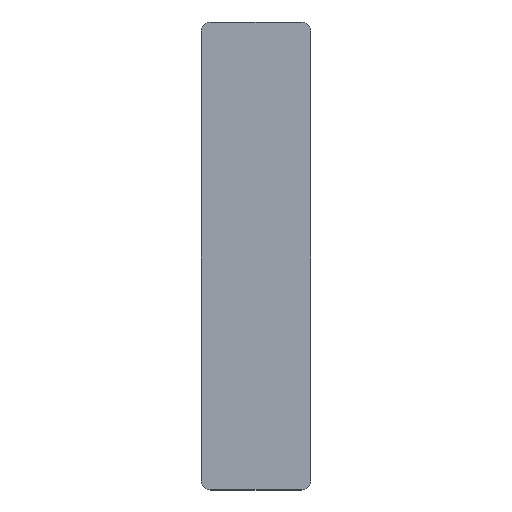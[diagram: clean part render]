
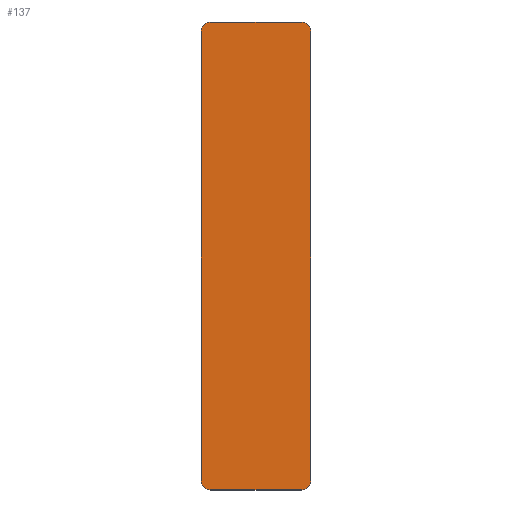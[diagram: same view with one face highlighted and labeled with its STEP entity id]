
A CAD part, top view. The second image highlights one B-rep face of the part: STEP entity #137.
In plain terms, the highlighted planar face has unit normal (0, 0, 1).
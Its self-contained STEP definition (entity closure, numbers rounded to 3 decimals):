
#21 = EDGE_CURVE('',#22,#24,#26,.T.);
#22 = VERTEX_POINT('',#23);
#23 = CARTESIAN_POINT('',(-11.5,-47.,-10.4));
#24 = VERTEX_POINT('',#25);
#25 = CARTESIAN_POINT('',(-11.5,47.,-10.4));
#26 = SURFACE_CURVE('',#27,(#31,#43),.PCURVE_S1.);
#27 = LINE('',#28,#29);
#28 = CARTESIAN_POINT('',(-11.5,-49.,-10.4));
#29 = VECTOR('',#30,1.);
#30 = DIRECTION('',(0.,1.,0.));
#31 = PCURVE('',#32,#37);
#32 = PLANE('',#33);
#33 = AXIS2_PLACEMENT_3D('',#34,#35,#36);
#34 = CARTESIAN_POINT('',(-11.5,-49.,-11.2));
#35 = DIRECTION('',(1.,0.,0.));
#36 = DIRECTION('',(0.,0.,1.));
#37 = DEFINITIONAL_REPRESENTATION('',(#38),#42);
#38 = LINE('',#39,#40);
#39 = CARTESIAN_POINT('',(0.8,0.));
#40 = VECTOR('',#41,1.);
#41 = DIRECTION('',(0.,-1.));
#42 = ( GEOMETRIC_REPRESENTATION_CONTEXT(2) 
PARAMETRIC_REPRESENTATION_CONTEXT() REPRESENTATION_CONTEXT('2D SPACE',''
  ) );
#43 = PCURVE('',#44,#49);
#44 = PLANE('',#45);
#45 = AXIS2_PLACEMENT_3D('',#46,#47,#48);
#46 = CARTESIAN_POINT('',(-11.5,-49.,-10.4));
#47 = DIRECTION('',(0.,0.,1.));
#48 = DIRECTION('',(1.,0.,0.));
#49 = DEFINITIONAL_REPRESENTATION('',(#50),#54);
#50 = LINE('',#51,#52);
#51 = CARTESIAN_POINT('',(0.,0.));
#52 = VECTOR('',#53,1.);
#53 = DIRECTION('',(0.,1.));
#54 = ( GEOMETRIC_REPRESENTATION_CONTEXT(2) 
PARAMETRIC_REPRESENTATION_CONTEXT() REPRESENTATION_CONTEXT('2D SPACE',''
  ) );
#72 = CYLINDRICAL_SURFACE('',#73,2.);
#73 = AXIS2_PLACEMENT_3D('',#74,#75,#76);
#74 = CARTESIAN_POINT('',(-9.5,-47.,-11.2));
#75 = DIRECTION('',(0.,0.,1.));
#76 = DIRECTION('',(-1.,-0.,0.));
#126 = CYLINDRICAL_SURFACE('',#127,2.);
#127 = AXIS2_PLACEMENT_3D('',#128,#129,#130);
#128 = CARTESIAN_POINT('',(-9.5,47.,-11.2));
#129 = DIRECTION('',(0.,0.,1.));
#130 = DIRECTION('',(-1.,-0.,0.));
#137 = ADVANCED_FACE('',(#138),#44,.T.);
#138 = FACE_BOUND('',#139,.T.);
#139 = EDGE_LOOP('',(#140,#141,#165,#193,#226,#254,#283,#311));
#140 = ORIENTED_EDGE('',*,*,#21,.F.);
#141 = ORIENTED_EDGE('',*,*,#142,.T.);
#142 = EDGE_CURVE('',#22,#143,#145,.T.);
#143 = VERTEX_POINT('',#144);
#144 = CARTESIAN_POINT('',(-9.5,-49.,-10.4));
#145 = SURFACE_CURVE('',#146,(#151,#158),.PCURVE_S1.);
#146 = CIRCLE('',#147,2.);
#147 = AXIS2_PLACEMENT_3D('',#148,#149,#150);
#148 = CARTESIAN_POINT('',(-9.5,-47.,-10.4));
#149 = DIRECTION('',(0.,0.,1.));
#150 = DIRECTION('',(0.,-1.,0.));
#151 = PCURVE('',#44,#152);
#152 = DEFINITIONAL_REPRESENTATION('',(#153),#157);
#153 = CIRCLE('',#154,2.);
#154 = AXIS2_PLACEMENT_2D('',#155,#156);
#155 = CARTESIAN_POINT('',(2.,2.));
#156 = DIRECTION('',(0.,-1.));
#157 = ( GEOMETRIC_REPRESENTATION_CONTEXT(2) 
PARAMETRIC_REPRESENTATION_CONTEXT() REPRESENTATION_CONTEXT('2D SPACE',''
  ) );
#158 = PCURVE('',#72,#159);
#159 = DEFINITIONAL_REPRESENTATION('',(#160),#164);
#160 = LINE('',#161,#162);
#161 = CARTESIAN_POINT('',(-4.712,0.8));
#162 = VECTOR('',#163,1.);
#163 = DIRECTION('',(1.,0.));
#164 = ( GEOMETRIC_REPRESENTATION_CONTEXT(2) 
PARAMETRIC_REPRESENTATION_CONTEXT() REPRESENTATION_CONTEXT('2D SPACE',''
  ) );
#165 = ORIENTED_EDGE('',*,*,#166,.T.);
#166 = EDGE_CURVE('',#143,#167,#169,.T.);
#167 = VERTEX_POINT('',#168);
#168 = CARTESIAN_POINT('',(9.5,-49.,-10.4));
#169 = SURFACE_CURVE('',#170,(#174,#181),.PCURVE_S1.);
#170 = LINE('',#171,#172);
#171 = CARTESIAN_POINT('',(-11.5,-49.,-10.4));
#172 = VECTOR('',#173,1.);
#173 = DIRECTION('',(1.,0.,0.));
#174 = PCURVE('',#44,#175);
#175 = DEFINITIONAL_REPRESENTATION('',(#176),#180);
#176 = LINE('',#177,#178);
#177 = CARTESIAN_POINT('',(0.,0.));
#178 = VECTOR('',#179,1.);
#179 = DIRECTION('',(1.,0.));
#180 = ( GEOMETRIC_REPRESENTATION_CONTEXT(2) 
PARAMETRIC_REPRESENTATION_CONTEXT() REPRESENTATION_CONTEXT('2D SPACE',''
  ) );
#181 = PCURVE('',#182,#187);
#182 = PLANE('',#183);
#183 = AXIS2_PLACEMENT_3D('',#184,#185,#186);
#184 = CARTESIAN_POINT('',(-11.5,-49.,-11.2));
#185 = DIRECTION('',(0.,1.,0.));
#186 = DIRECTION('',(0.,0.,1.));
#187 = DEFINITIONAL_REPRESENTATION('',(#188),#192);
#188 = LINE('',#189,#190);
#189 = CARTESIAN_POINT('',(0.8,0.));
#190 = VECTOR('',#191,1.);
#191 = DIRECTION('',(0.,1.));
#192 = ( GEOMETRIC_REPRESENTATION_CONTEXT(2) 
PARAMETRIC_REPRESENTATION_CONTEXT() REPRESENTATION_CONTEXT('2D SPACE',''
  ) );
#193 = ORIENTED_EDGE('',*,*,#194,.F.);
#194 = EDGE_CURVE('',#195,#167,#197,.T.);
#195 = VERTEX_POINT('',#196);
#196 = CARTESIAN_POINT('',(11.5,-47.,-10.4));
#197 = SURFACE_CURVE('',#198,(#203,#214),.PCURVE_S1.);
#198 = CIRCLE('',#199,2.);
#199 = AXIS2_PLACEMENT_3D('',#200,#201,#202);
#200 = CARTESIAN_POINT('',(9.5,-47.,-10.4));
#201 = DIRECTION('',(-0.,-0.,-1.));
#202 = DIRECTION('',(0.,-1.,0.));
#203 = PCURVE('',#44,#204);
#204 = DEFINITIONAL_REPRESENTATION('',(#205),#213);
#205 = ( BOUNDED_CURVE() B_SPLINE_CURVE(2,(#206,#207,#208,#209,#210,#211
,#212),.UNSPECIFIED.,.T.,.F.) B_SPLINE_CURVE_WITH_KNOTS((1,2,2,2,2,1),(
    -2.094,0.,2.094,4.189,6.283,
8.378),.UNSPECIFIED.) CURVE() GEOMETRIC_REPRESENTATION_ITEM() 
RATIONAL_B_SPLINE_CURVE((1.,0.5,1.,0.5,1.,0.5,1.)) REPRESENTATION_ITEM(
  '') );
#206 = CARTESIAN_POINT('',(21.,0.));
#207 = CARTESIAN_POINT('',(17.536,0.));
#208 = CARTESIAN_POINT('',(19.268,3.));
#209 = CARTESIAN_POINT('',(21.,6.));
#210 = CARTESIAN_POINT('',(22.732,3.));
#211 = CARTESIAN_POINT('',(24.464,0.));
#212 = CARTESIAN_POINT('',(21.,0.));
#213 = ( GEOMETRIC_REPRESENTATION_CONTEXT(2) 
PARAMETRIC_REPRESENTATION_CONTEXT() REPRESENTATION_CONTEXT('2D SPACE',''
  ) );
#214 = PCURVE('',#215,#220);
#215 = CYLINDRICAL_SURFACE('',#216,2.);
#216 = AXIS2_PLACEMENT_3D('',#217,#218,#219);
#217 = CARTESIAN_POINT('',(9.5,-47.,-11.2));
#218 = DIRECTION('',(0.,0.,1.));
#219 = DIRECTION('',(1.,0.,-0.));
#220 = DEFINITIONAL_REPRESENTATION('',(#221),#225);
#221 = LINE('',#222,#223);
#222 = CARTESIAN_POINT('',(4.712,0.8));
#223 = VECTOR('',#224,1.);
#224 = DIRECTION('',(-1.,0.));
#225 = ( GEOMETRIC_REPRESENTATION_CONTEXT(2) 
PARAMETRIC_REPRESENTATION_CONTEXT() REPRESENTATION_CONTEXT('2D SPACE',''
  ) );
#226 = ORIENTED_EDGE('',*,*,#227,.T.);
#227 = EDGE_CURVE('',#195,#228,#230,.T.);
#228 = VERTEX_POINT('',#229);
#229 = CARTESIAN_POINT('',(11.5,47.,-10.4));
#230 = SURFACE_CURVE('',#231,(#235,#242),.PCURVE_S1.);
#231 = LINE('',#232,#233);
#232 = CARTESIAN_POINT('',(11.5,-49.,-10.4));
#233 = VECTOR('',#234,1.);
#234 = DIRECTION('',(0.,1.,0.));
#235 = PCURVE('',#44,#236);
#236 = DEFINITIONAL_REPRESENTATION('',(#237),#241);
#237 = LINE('',#238,#239);
#238 = CARTESIAN_POINT('',(23.,0.));
#239 = VECTOR('',#240,1.);
#240 = DIRECTION('',(0.,1.));
#241 = ( GEOMETRIC_REPRESENTATION_CONTEXT(2) 
PARAMETRIC_REPRESENTATION_CONTEXT() REPRESENTATION_CONTEXT('2D SPACE',''
  ) );
#242 = PCURVE('',#243,#248);
#243 = PLANE('',#244);
#244 = AXIS2_PLACEMENT_3D('',#245,#246,#247);
#245 = CARTESIAN_POINT('',(11.5,-49.,-11.2));
#246 = DIRECTION('',(1.,0.,0.));
#247 = DIRECTION('',(0.,0.,1.));
#248 = DEFINITIONAL_REPRESENTATION('',(#249),#253);
#249 = LINE('',#250,#251);
#250 = CARTESIAN_POINT('',(0.8,0.));
#251 = VECTOR('',#252,1.);
#252 = DIRECTION('',(0.,-1.));
#253 = ( GEOMETRIC_REPRESENTATION_CONTEXT(2) 
PARAMETRIC_REPRESENTATION_CONTEXT() REPRESENTATION_CONTEXT('2D SPACE',''
  ) );
#254 = ORIENTED_EDGE('',*,*,#255,.T.);
#255 = EDGE_CURVE('',#228,#256,#258,.T.);
#256 = VERTEX_POINT('',#257);
#257 = CARTESIAN_POINT('',(9.5,49.,-10.4));
#258 = SURFACE_CURVE('',#259,(#264,#271),.PCURVE_S1.);
#259 = CIRCLE('',#260,2.);
#260 = AXIS2_PLACEMENT_3D('',#261,#262,#263);
#261 = CARTESIAN_POINT('',(9.5,47.,-10.4));
#262 = DIRECTION('',(0.,0.,1.));
#263 = DIRECTION('',(0.,-1.,0.));
#264 = PCURVE('',#44,#265);
#265 = DEFINITIONAL_REPRESENTATION('',(#266),#270);
#266 = CIRCLE('',#267,2.);
#267 = AXIS2_PLACEMENT_2D('',#268,#269);
#268 = CARTESIAN_POINT('',(21.,96.));
#269 = DIRECTION('',(0.,-1.));
#270 = ( GEOMETRIC_REPRESENTATION_CONTEXT(2) 
PARAMETRIC_REPRESENTATION_CONTEXT() REPRESENTATION_CONTEXT('2D SPACE',''
  ) );
#271 = PCURVE('',#272,#277);
#272 = CYLINDRICAL_SURFACE('',#273,2.);
#273 = AXIS2_PLACEMENT_3D('',#274,#275,#276);
#274 = CARTESIAN_POINT('',(9.5,47.,-11.2));
#275 = DIRECTION('',(0.,0.,1.));
#276 = DIRECTION('',(1.,0.,-0.));
#277 = DEFINITIONAL_REPRESENTATION('',(#278),#282);
#278 = LINE('',#279,#280);
#279 = CARTESIAN_POINT('',(-1.571,0.8));
#280 = VECTOR('',#281,1.);
#281 = DIRECTION('',(1.,0.));
#282 = ( GEOMETRIC_REPRESENTATION_CONTEXT(2) 
PARAMETRIC_REPRESENTATION_CONTEXT() REPRESENTATION_CONTEXT('2D SPACE',''
  ) );
#283 = ORIENTED_EDGE('',*,*,#284,.F.);
#284 = EDGE_CURVE('',#285,#256,#287,.T.);
#285 = VERTEX_POINT('',#286);
#286 = CARTESIAN_POINT('',(-9.5,49.,-10.4));
#287 = SURFACE_CURVE('',#288,(#292,#299),.PCURVE_S1.);
#288 = LINE('',#289,#290);
#289 = CARTESIAN_POINT('',(-11.5,49.,-10.4));
#290 = VECTOR('',#291,1.);
#291 = DIRECTION('',(1.,0.,0.));
#292 = PCURVE('',#44,#293);
#293 = DEFINITIONAL_REPRESENTATION('',(#294),#298);
#294 = LINE('',#295,#296);
#295 = CARTESIAN_POINT('',(0.,98.));
#296 = VECTOR('',#297,1.);
#297 = DIRECTION('',(1.,0.));
#298 = ( GEOMETRIC_REPRESENTATION_CONTEXT(2) 
PARAMETRIC_REPRESENTATION_CONTEXT() REPRESENTATION_CONTEXT('2D SPACE',''
  ) );
#299 = PCURVE('',#300,#305);
#300 = PLANE('',#301);
#301 = AXIS2_PLACEMENT_3D('',#302,#303,#304);
#302 = CARTESIAN_POINT('',(-11.5,49.,-11.2));
#303 = DIRECTION('',(0.,1.,0.));
#304 = DIRECTION('',(0.,0.,1.));
#305 = DEFINITIONAL_REPRESENTATION('',(#306),#310);
#306 = LINE('',#307,#308);
#307 = CARTESIAN_POINT('',(0.8,0.));
#308 = VECTOR('',#309,1.);
#309 = DIRECTION('',(0.,1.));
#310 = ( GEOMETRIC_REPRESENTATION_CONTEXT(2) 
PARAMETRIC_REPRESENTATION_CONTEXT() REPRESENTATION_CONTEXT('2D SPACE',''
  ) );
#311 = ORIENTED_EDGE('',*,*,#312,.F.);
#312 = EDGE_CURVE('',#24,#285,#313,.T.);
#313 = SURFACE_CURVE('',#314,(#319,#330),.PCURVE_S1.);
#314 = CIRCLE('',#315,2.);
#315 = AXIS2_PLACEMENT_3D('',#316,#317,#318);
#316 = CARTESIAN_POINT('',(-9.5,47.,-10.4));
#317 = DIRECTION('',(-0.,-0.,-1.));
#318 = DIRECTION('',(0.,-1.,0.));
#319 = PCURVE('',#44,#320);
#320 = DEFINITIONAL_REPRESENTATION('',(#321),#329);
#321 = ( BOUNDED_CURVE() B_SPLINE_CURVE(2,(#322,#323,#324,#325,#326,#327
,#328),.UNSPECIFIED.,.T.,.F.) B_SPLINE_CURVE_WITH_KNOTS((1,2,2,2,2,1),(
    -2.094,0.,2.094,4.189,6.283,
8.378),.UNSPECIFIED.) CURVE() GEOMETRIC_REPRESENTATION_ITEM() 
RATIONAL_B_SPLINE_CURVE((1.,0.5,1.,0.5,1.,0.5,1.)) REPRESENTATION_ITEM(
  '') );
#322 = CARTESIAN_POINT('',(2.,94.));
#323 = CARTESIAN_POINT('',(-1.464,94.));
#324 = CARTESIAN_POINT('',(0.268,97.));
#325 = CARTESIAN_POINT('',(2.,100.));
#326 = CARTESIAN_POINT('',(3.732,97.));
#327 = CARTESIAN_POINT('',(5.464,94.));
#328 = CARTESIAN_POINT('',(2.,94.));
#329 = ( GEOMETRIC_REPRESENTATION_CONTEXT(2) 
PARAMETRIC_REPRESENTATION_CONTEXT() REPRESENTATION_CONTEXT('2D SPACE',''
  ) );
#330 = PCURVE('',#126,#331);
#331 = DEFINITIONAL_REPRESENTATION('',(#332),#336);
#332 = LINE('',#333,#334);
#333 = CARTESIAN_POINT('',(1.571,0.8));
#334 = VECTOR('',#335,1.);
#335 = DIRECTION('',(-1.,0.));
#336 = ( GEOMETRIC_REPRESENTATION_CONTEXT(2) 
PARAMETRIC_REPRESENTATION_CONTEXT() REPRESENTATION_CONTEXT('2D SPACE',''
  ) );
